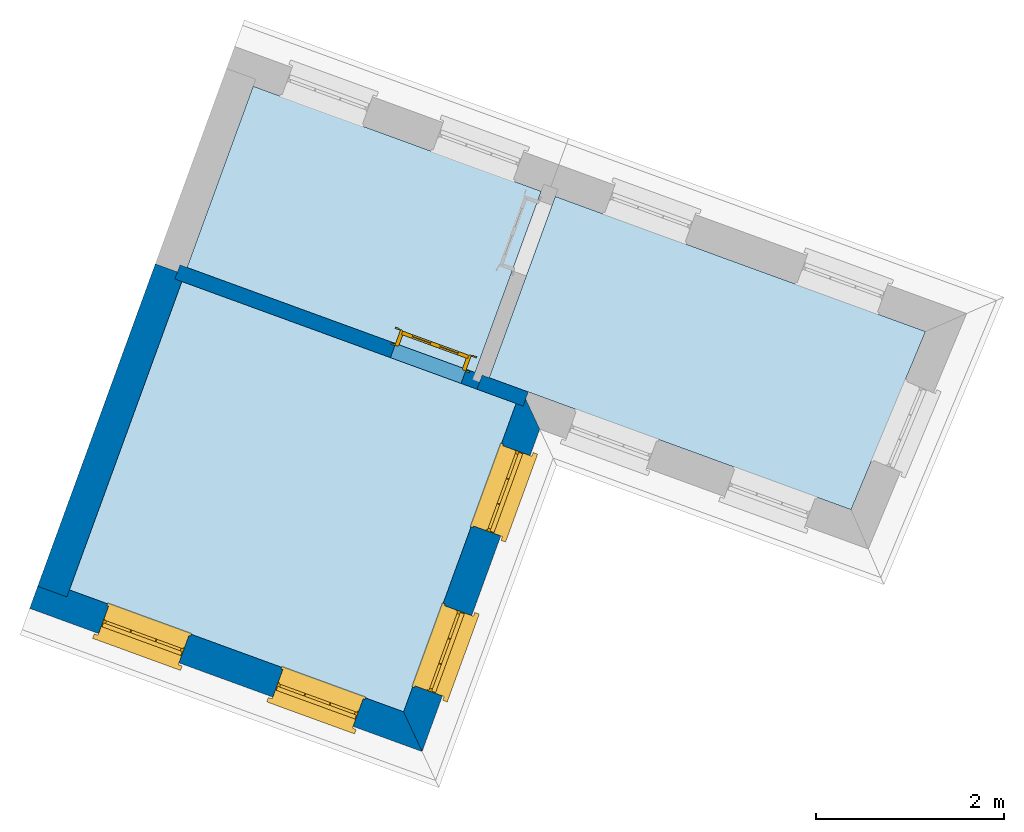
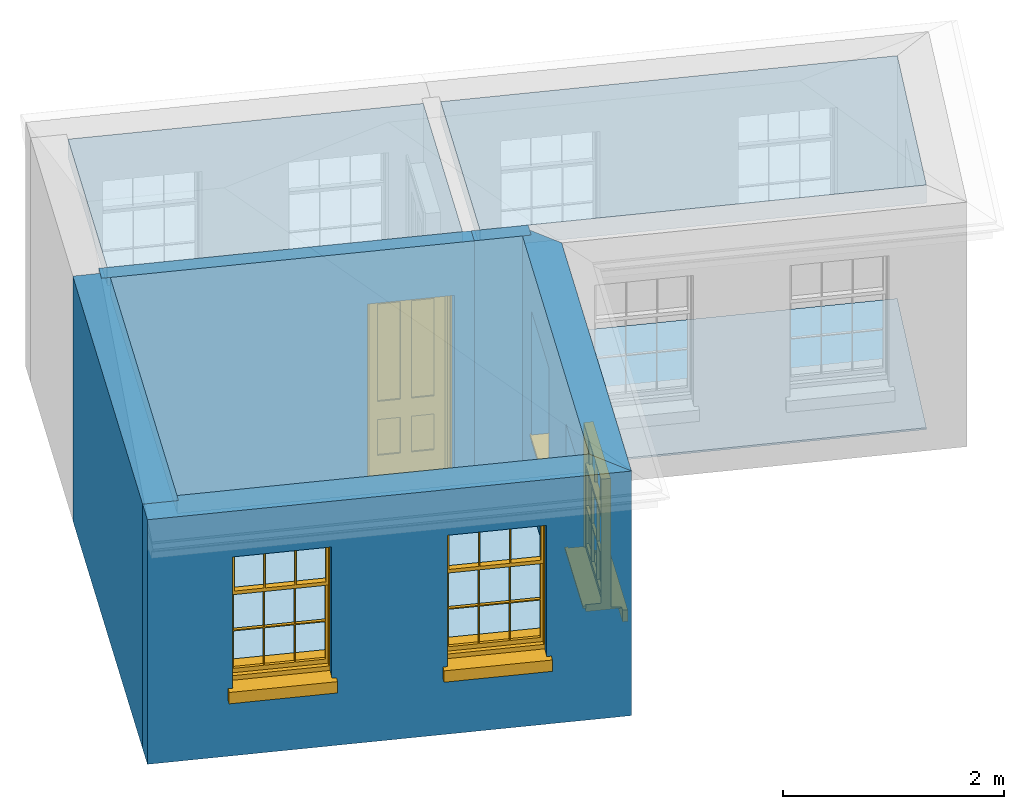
# One storey, part 1 of 3: 5 slabs, 5 walls, 4 windows, 1 door, 5 openings.
"""IFC4 building model written with IfcOpenShell, lengths in metres."""

from ifc_helpers import new_model, si_unit, frame, origin, origin_with_axes, place, context, subcontext, project, spatial, polyline, outline, extrude, faceted_brep, source, transform, mapped, material, layer, layer_set, layer_usage, type_object, type_shapes, element, fill, save


model = new_model("IFC4")

# Units and contexts
model_context = context("Model", 3, world=origin_with_axes())
body_context = subcontext(model_context, "Body", "Model", "MODEL_VIEW")
ifc_project = project(units=[si_unit("PLANEANGLEUNIT", "RADIAN"), si_unit("MASSUNIT", "GRAM", prefix="KILO"), si_unit("FORCEUNIT", "NEWTON", prefix="KILO"), si_unit("LENGTHUNIT", "METRE"), si_unit("AREAUNIT", "SQUARE_METRE"), si_unit("VOLUMEUNIT", "CUBIC_METRE")], contexts=[model_context, model_context])

# Sites, building, storey
site_1_placement = place(None, origin_with_axes())
site_1 = spatial("IfcSite", under=ifc_project, at=site_1_placement, Name="Tamar")
site_2_placement = place(site_1_placement, origin_with_axes())
site_2 = spatial("IfcSite", under=site_1, at=site_2_placement, Name="Site plot-13", CompositionType="ELEMENT")
building_placement = place(None, origin_with_axes())
building = spatial("IfcBuilding", under=site_2, at=building_placement, Name="Building plot-13", CompositionType="ELEMENT")
storey_placement = place(None, frame((0.0, 0.0, 31.85), z_axis=(0.0, 0.0, 1.0), x_axis=(1.0, 0.0, 0.0)))
storey = spatial("IfcBuildingStorey", under=building, at=storey_placement, Name="plot-13 2", CompositionType="ELEMENT", Elevation=31.85)

# Slabs
slab_1_placement = place(storey_placement, frame((245.701009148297, 301.023785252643, 2.5)))
element("IfcSlab", 1, at=slab_1_placement, inside=storey, Name="My Slab", ObjectType="Slab", PredefinedType="FLOOR", context=body_context, shape_type="SweptSolid", body=[
    extrude(outline(polyline([(0.0, 0.0), (0.703407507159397, 1.92803364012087), (-2.36094619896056, 3.04600656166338), (-3.06435370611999, 1.11797292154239), (0.0, 0.0)])), origin_with_axes(), (0.0, 0.0, 1.0), 0.2),
])
slab_2_placement = place(storey_placement, frame((241.385160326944, 298.711421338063, 2.5)))
element("IfcSlab", 2, at=slab_2_placement, inside=storey, Name="My Slab", ObjectType="Slab", PredefinedType="FLOOR", context=body_context, shape_type="SweptSolid", body=[
    extrude(outline(polyline([(0.0, 0.0), (3.55554212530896, -1.29717395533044), (4.75219971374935, 1.98285371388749), (1.19665758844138, 3.28002766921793), (0.0, 0.0)])), origin_with_axes(), (0.0, 0.0, 1.0), 0.2),
])
slab_3_placement = place(storey_placement, frame((241.385160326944, 298.711421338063, 0.0)))
element("IfcSlab", 3, at=slab_3_placement, inside=storey, Name="My Slab", ObjectType="Slab", PredefinedType="FLOOR", context=body_context, shape_type="SweptSolid", body=[
    extrude(outline(polyline([(0.0, 0.0), (3.55554212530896, -1.29717395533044), (4.75219971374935, 1.98285371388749), (1.19665758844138, 3.28002766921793), (0.0, 0.0)])), origin_with_axes(), (0.0, 0.0, 1.0), 0.02),
])
slab_4_placement = place(storey_placement, frame((245.851318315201, 300.968947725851, 2.5)))
element("IfcSlab", 4, at=slab_4_placement, inside=storey, Name="My Slab", ObjectType="Slab", PredefinedType="FLOOR", context=body_context, shape_type="SweptSolid", body=[
    extrude(outline(polyline([(0.0, 0.0), (3.85091988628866, -1.40493708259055), (4.64220016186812, 0.491037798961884), (0.703407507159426, 1.92803364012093), (0.0, 0.0)])), origin_with_axes(), (0.0, 0.0, 1.0), 0.2),
])
slab_5_placement = place(storey_placement, frame((245.851318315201, 300.968947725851, 0.0)))
element("IfcSlab", 5, at=slab_5_placement, inside=storey, Name="My Slab", ObjectType="Slab", PredefinedType="FLOOR", context=body_context, shape_type="SweptSolid", body=[
    extrude(outline(polyline([(0.0, 0.0), (3.85091988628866, -1.40493708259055), (4.64220016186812, 0.491037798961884), (0.703407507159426, 1.92803364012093), (0.0, 0.0)])), origin_with_axes(), (0.0, 0.0, 1.0), 0.02),
])

# Wall, openings, windows
ifc_material_1 = material(Name="Masonry")
ifc_layer_1 = layer(ifc_material_1, 0.33, ventilated=False)
ifc_layer_set_1 = layer_set([ifc_layer_1], Name="exterior_0.08_0.25")
ifc_layer_usage_1 = layer_usage(ifc_layer_set_1, "AXIS2", "POSITIVE", -0.25)
wall_type_1 = type_object("IfcWallType", Name="exterior_0.08_0.25", PredefinedType="SOLIDWALL", material=ifc_layer_set_1)
wall_1_placement = place(storey_placement, frame((241.282586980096, 298.663685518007, 0.0), z_axis=(0.0, 0.0, 1.0), x_axis=(0.939432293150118, -0.342734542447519, 0.0)))
wall_1 = element("IfcWall", 6, at=wall_1_placement, inside=storey, type_object=wall_type_1, material=ifc_layer_usage_1, Name="exterior", context=body_context, shape_type="SweptSolid", body=[
    extrude(outline(polyline([(-0.249999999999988, 0.0799999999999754), (-0.250000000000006, -0.249999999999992), (4.1947774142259, -0.24999999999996), (3.86477741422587, 0.079999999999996), (-0.249999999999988, 0.0799999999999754)])), origin_with_axes(), (0.0, 0.0, 1.0), 2.7),
])
opening_1_placement = place(wall_1_placement, frame((0.531194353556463, 0.0, 0.75)))
opening_1 = element("IfcOpeningElement", 7, at=opening_1_placement, cuts=wall_1, Name="My Opening", ObjectType="Opening", context=body_context, shape_type="SweptSolid", body=[
    extrude(outline(polyline([(0.0, -0.269999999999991), (0.909999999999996, -0.269999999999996), (0.910000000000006, 1.1), (9.99200722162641e-15, 1.10000000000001), (0.0, -0.269999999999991)])), origin_with_axes(), (0.0, 0.0, 1.0), 1.445),
])
opening_2_placement = place(wall_1_placement, frame((2.50358306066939, 0.0, 0.75)))
opening_2 = element("IfcOpeningElement", 8, at=opening_2_placement, cuts=wall_1, Name="My Opening", ObjectType="Opening", context=body_context, shape_type="SweptSolid", body=[
    extrude(outline(polyline([(0.0, -0.270000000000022), (0.909999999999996, -0.270000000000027), (0.910000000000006, 1.09999999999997), (1.02140518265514e-14, 1.09999999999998), (0.0, -0.270000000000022)])), origin_with_axes(), (0.0, 0.0, 1.0), 1.445),
])
window_type = type_object("IfcWindowType", Name="sash_shorter", PartitioningType="DOUBLE_PANEL_HORIZONTAL", PredefinedType="NOTDEFINED")
shared_shape_1 = source(origin(), body_context, "Body", "Brep", [
    faceted_brep([(0.876875, 0.145, 0.999097), (0.876875, 0.145, 1.411875), (0.9, 0.145, 1.435), (0.033125, 0.145, 1.411875), (0.033125, 0.145, 0.999097), (0.01, 0.145, 1.435), (0.033125, 0.115, 1.411875), (0.01, 0.115, 1.435), (0.033125, 0.115, 0.999097), (0.876875, 0.115, 1.411875), (0.876875, 0.115, 0.999097), (0.9, 0.115, 1.435), (0.033125, 0.145, 0.960972), (0.01, 0.145, 0.960972), (0.033125, 0.145, 0.548195), (0.876875, 0.145, 0.960972), (0.876875, 0.145, 0.548195), (0.9, 0.145, 0.960972), (0.876875, 0.145, 0.538195), (0.876875, 0.145, 0.125417), (0.9, 0.145, 0.077167), (0.033125, 0.145, 0.125417), (0.033125, 0.145, 0.538195), (0.01, 0.145, 0.077167), (0.9, 0.115, 0.960972), (0.01, 0.115, 0.960972), (-0.0425, 0.0, 0.01), (-0.0425, -0.05, 0.001667), (0.0, 0.0, 0.01), (0.9525, 0.0, 0.01), (0.91, 0.0, 0.01), (0.9525, -0.05, 0.001667), (-0.02, 0.33, 0.077167), (0.0, 0.33, 0.077167), (-0.02, 0.36, 0.077167), (0.0, 0.19, 0.077167), (0.01, 0.19, 0.077167), (0.91, 0.19, 0.077167), (0.91, 0.33, 0.077167), (0.9, 0.19, 0.077167), (0.93, 0.33, 0.077167), (0.93, 0.36, 0.077167), (0.01, 0.145, 0.999097), (0.01, 0.175, 0.999097), (0.9, 0.145, 0.999097), (0.9, 0.175, 0.999097), (0.876875, 0.175, 0.125417), (0.876875, 0.175, 0.538195), (0.9, 0.175, 0.077167), (0.876875, 0.175, 0.548195), (0.876875, 0.175, 0.960972), (0.033125, 0.175, 0.125417), (0.01, 0.175, 0.077167), (0.033125, 0.175, 0.538195), (0.033125, 0.175, 0.960972), (0.033125, 0.175, 0.548195), (-0.02, 0.33, 0.052167), (-0.02, 0.36, 0.052167), (0.93, 0.36, 0.052167), (0.93, 0.33, 0.052167), (0.91, 0.33, 0.052167), (0.0, 0.33, 0.052167), (0.91, 0.1, 0.026667), (0.0, 0.1, 0.026667), (-0.0425, -0.05, -0.123333), (0.9525, -0.05, -0.123333), (-0.0425, 0.0, -0.123333), (0.9525, 0.0, -0.123333), (0.01, 0.19, 1.435), (0.9, 0.19, 1.435), (0.0, 0.19, 1.445), (0.91, 0.19, 1.445), (0.01, 0.1, 0.077167), (0.9, 0.1, 0.077167), (0.592292, 0.145, 0.125417), (0.592292, 0.175, 0.125417), (0.317708, 0.175, 0.125417), (0.317708, 0.145, 0.125417), (0.592292, 0.145, 0.548195), (0.317708, 0.145, 0.548195), (0.317708, 0.145, 0.538195), (0.592292, 0.145, 0.538195), (0.592292, 0.175, 0.548195), (0.317708, 0.175, 0.548195), (0.602292, 0.175, 0.548195), (0.602292, 0.145, 0.548195), (0.317708, 0.175, 0.538195), (0.307708, 0.175, 0.125417), (0.307708, 0.175, 0.538195), (0.602292, 0.175, 0.538195), (0.602292, 0.175, 0.125417), (0.592292, 0.175, 0.538195), (0.307708, 0.175, 0.548195), (0.317708, 0.175, 0.960972), (0.307708, 0.175, 0.960972), (0.602292, 0.175, 0.960972), (0.592292, 0.175, 0.960972), (0.307708, 0.145, 0.538195), (0.307708, 0.145, 0.125417), (0.307708, 0.145, 0.548195), (0.307708, 0.145, 0.960972), (0.592292, 0.145, 0.960972), (0.317708, 0.145, 0.960972), (0.602292, 0.145, 0.960972), (0.602292, 0.145, 0.538195), (0.602292, 0.145, 0.125417), (0.317708, 0.115, 1.411875), (0.307708, 0.115, 1.411875), (0.307708, 0.115, 0.999097), (0.317708, 0.115, 0.999097), (0.602292, 0.115, 1.411875), (0.592292, 0.115, 1.411875), (0.592292, 0.115, 0.999097), (0.602292, 0.115, 0.999097), (0.317708, 0.145, 0.999097), (0.307708, 0.145, 0.999097), (0.307708, 0.145, 1.411875), (0.317708, 0.145, 1.411875), (0.602292, 0.145, 0.999097), (0.592292, 0.145, 0.999097), (0.592292, 0.145, 1.411875), (0.602292, 0.145, 1.411875), (0.91, 0.1, 1.445), (0.9, 0.1, 1.435), (0.01, 0.1, 1.435), (0.0, 0.1, 1.445), (0.91, 0.0, 0.0), (0.0, 0.0, 0.0), (0.91, 0.33, 0.0), (0.0, 0.33, 0.0)], [[[0, 1, 2]], [[3, 4, 5]], [[6, 7, 8]], [[9, 10, 11]], [[12, 13, 14]], [[15, 16, 17]], [[18, 19, 20]], [[21, 22, 23]], [[24, 15, 17]], [[13, 12, 25]], [[26, 27, 28]], [[29, 30, 31]], [[32, 33, 34]], [[35, 36, 33]], [[37, 38, 39]], [[40, 41, 38]], [[42, 4, 43]], [[44, 45, 0]], [[46, 47, 48]], [[49, 50, 45]], [[51, 52, 53]], [[54, 55, 43]], [[38, 33, 36, 39]], [[41, 34, 33, 38]], [[56, 32, 34, 57]], [[57, 34, 41, 58]], [[58, 41, 40, 59]], [[57, 58, 60, 61]], [[52, 48, 39, 36]], [[62, 63, 28, 30]], [[27, 31, 30, 28]], [[27, 64, 65, 31]], [[66, 67, 65, 64]], [[2, 5, 68, 69]], [[68, 70, 71, 69]], [[20, 23, 72, 73]], [[73, 72, 63, 62]], [[74, 75, 76, 77]], [[78, 79, 80, 81]], [[78, 82, 83, 79]], [[16, 49, 84, 85]], [[86, 76, 87, 88]], [[89, 90, 75, 91]], [[92, 88, 53, 55]], [[82, 91, 86, 83]], [[93, 83, 92, 94]], [[95, 84, 82, 96]], [[89, 84, 49, 47]], [[97, 88, 87, 98]], [[22, 53, 88, 97]], [[81, 91, 75, 74]], [[80, 86, 91, 81]], [[77, 76, 86, 80]], [[99, 92, 55, 14]], [[100, 94, 92, 99]], [[101, 96, 82, 78]], [[79, 83, 93, 102]], [[85, 84, 95, 103]], [[104, 89, 47, 18]], [[105, 90, 89, 104]], [[104, 18, 16, 85]], [[80, 97, 98, 77]], [[104, 81, 74, 105]], [[103, 101, 78, 85]], [[99, 14, 22, 97]], [[102, 100, 99, 79]], [[106, 107, 108, 109]], [[110, 111, 112, 113]], [[114, 115, 116, 117]], [[118, 119, 120, 121]], [[107, 116, 115, 108]], [[111, 120, 119, 112]], [[109, 114, 117, 106]], [[113, 118, 121, 110]], [[85, 78, 81, 104]], [[84, 89, 91, 82]], [[83, 86, 88, 92]], [[79, 99, 97, 80]], [[109, 112, 119, 114]], [[102, 93, 96, 101]], [[106, 117, 120, 111]], [[98, 87, 51, 21]], [[6, 3, 116, 107]], [[110, 121, 1, 9]], [[19, 46, 90, 105]], [[26, 66, 64, 27]], [[29, 31, 65, 67]], [[25, 24, 112, 109]], [[11, 7, 106, 111]], [[75, 48, 52, 76]], [[43, 45, 96, 93]], [[45, 43, 114, 119]], [[5, 2, 120, 117]], [[24, 25, 102, 101]], [[42, 5, 4]], [[2, 44, 0]], [[49, 45, 48, 47]], [[52, 43, 55, 53]], [[14, 13, 23, 22]], [[20, 17, 16, 18]], [[24, 11, 10]], [[25, 8, 7]], [[8, 4, 3, 6]], [[9, 1, 0, 10]], [[15, 50, 49, 16]], [[18, 47, 46, 19]], [[21, 51, 53, 22]], [[14, 55, 54, 12]], [[44, 2, 69, 45]], [[68, 5, 42, 43]], [[36, 35, 70, 68]], [[39, 69, 71, 37]], [[62, 122, 123, 73]], [[63, 72, 124, 125]], [[8, 108, 115, 4]], [[113, 10, 0, 118]], [[94, 100, 12, 54]], [[17, 20, 73, 24]], [[72, 23, 13, 25]], [[52, 36, 68, 43]], [[69, 39, 48, 45]], [[11, 24, 73, 123]], [[7, 124, 72, 25]], [[23, 77, 98]], [[98, 21, 23]], [[105, 74, 20]], [[20, 19, 105]], [[20, 74, 77, 23]], [[113, 112, 24]], [[24, 10, 113]], [[25, 109, 108]], [[108, 8, 25]], [[110, 9, 11]], [[11, 111, 110]], [[7, 6, 107]], [[107, 106, 7]], [[5, 117, 116]], [[116, 3, 5]], [[121, 120, 2]], [[2, 1, 121]], [[11, 123, 124, 7]], [[122, 125, 124, 123]], [[43, 93, 94]], [[94, 54, 43]], [[96, 45, 95]], [[50, 95, 45]], [[15, 103, 95, 50]], [[48, 75, 90]], [[90, 46, 48]], [[87, 76, 52]], [[52, 51, 87]], [[103, 15, 24]], [[24, 101, 103]], [[100, 102, 25]], [[25, 12, 100]], [[115, 114, 43]], [[43, 4, 115]], [[118, 0, 45]], [[45, 119, 118]], [[71, 70, 125, 122]], [[70, 35, 63, 125]], [[122, 62, 37, 71]], [[126, 67, 66, 127]], [[60, 58, 59]], [[38, 60, 59, 40]], [[61, 56, 57]], [[32, 56, 61, 33]], [[61, 60, 128, 129]], [[62, 60, 38, 37]], [[126, 128, 60, 62]], [[33, 61, 63, 35]], [[61, 129, 127, 63]], [[128, 126, 127, 129]], [[28, 127, 66, 26]], [[63, 127, 28]], [[29, 67, 126, 30]], [[30, 126, 62]]]),
])
type_shapes(window_type, [shared_shape_1])
window_1_placement = place(storey_placement, frame((241.689069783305, 298.22798014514, 0.75), z_axis=(0.0, 0.0, 1.0), x_axis=(0.854883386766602, -0.311888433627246, 0.0)))
window_1 = element("IfcWindow", 9, at=window_1_placement, inside=storey, type_object=window_type, Name="bedroom outside window", OverallHeight=1.445, OverallWidth=0.91, context=body_context, shape_type="MappedRepresentation", body=[
    mapped(shared_shape_1, transform((0.0, 0.0, 0.0), scale=1.0)),
])
fill(opening_1, window_1)
window_2_placement = place(storey_placement, frame((243.541995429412, 297.551974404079, 0.75), z_axis=(0.0, 0.0, 1.0), x_axis=(0.854883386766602, -0.311888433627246, 0.0)))
window_2 = element("IfcWindow", 10, at=window_2_placement, inside=storey, type_object=window_type, Name="bedroom outside window", OverallHeight=1.445, OverallWidth=0.91, context=body_context, shape_type="MappedRepresentation", body=[
    mapped(shared_shape_1, transform((0.0, 0.0, 0.0), scale=1.0)),
])
fill(opening_2, window_2)

wall_2_placement = place(storey_placement, frame((244.988438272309, 297.311674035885, 0.0), z_axis=(0.0, 0.0, 1.0), x_axis=(0.342734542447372, 0.939432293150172, 0.0)))
wall_2 = element("IfcWall", 11, at=wall_2_placement, inside=storey, type_object=wall_type_1, material=ifc_layer_usage_1, Name="exterior", context=body_context, shape_type="SweptSolid", body=[
    extrude(outline(polyline([(0.0800000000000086, 0.0799999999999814), (-0.249999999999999, -0.249999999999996), (3.40149980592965, -0.249999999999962), (3.73149980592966, 0.0800000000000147), (0.0800000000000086, 0.0799999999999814)])), origin_with_axes(), (0.0, 0.0, 1.0), 2.7),
])
opening_3_placement = place(wall_2_placement, frame((0.379999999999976, 0.0, 0.75)))
opening_3 = element("IfcOpeningElement", 12, at=opening_3_placement, cuts=wall_2, Name="My Opening", ObjectType="Opening", context=body_context, shape_type="SweptSolid", body=[
    extrude(outline(polyline([(0.0, -0.269999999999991), (0.910000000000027, -0.269999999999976), (0.910000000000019, 1.1), (-7.7715611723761e-15, 1.09999999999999), (0.0, -0.269999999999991)])), origin_with_axes(), (0.0, 0.0, 1.0), 1.445),
])
opening_4_placement = place(wall_2_placement, frame((2.19149980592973, 0.0, 0.75)))
opening_4 = element("IfcOpeningElement", 13, at=opening_4_placement, cuts=wall_2, Name="My Opening", ObjectType="Opening", context=body_context, shape_type="SweptSolid", body=[
    extrude(outline(polyline([(0.0, -0.269999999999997), (0.909999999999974, -0.270000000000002), (0.909999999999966, 1.09999999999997), (-7.54951656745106e-15, 1.09999999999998), (0.0, -0.269999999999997)])), origin_with_axes(), (0.0, 0.0, 1.0), 1.445),
])
window_3_placement = place(storey_placement, frame((245.37232411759, 297.576119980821, 0.75), z_axis=(0.0, 0.0, 1.0), x_axis=(0.311888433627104, 0.854883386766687, 0.0)))
window_3 = element("IfcWindow", 14, at=window_3_placement, inside=storey, type_object=window_type, Name="bedroom outside window", OverallHeight=1.445, OverallWidth=0.91, context=body_context, shape_type="MappedRepresentation", body=[
    mapped(shared_shape_1, transform((0.0, 0.0, 0.0), scale=1.0)),
])
fill(opening_3, window_3)
window_4_placement = place(storey_placement, frame((245.993187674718, 299.277901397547, 0.75), z_axis=(0.0, 0.0, 1.0), x_axis=(0.311888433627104, 0.85488338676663, 0.0)))
window_4 = element("IfcWindow", 15, at=window_4_placement, inside=storey, type_object=window_type, Name="bedroom outside window", OverallHeight=1.445, OverallWidth=0.91, context=body_context, shape_type="MappedRepresentation", body=[
    mapped(shared_shape_1, transform((0.0, 0.0, 0.0), scale=1.0)),
])
fill(opening_4, window_4)

# Wall
ifc_material_2 = material(Name="Masonry")
ifc_layer_2 = layer(ifc_material_2, 0.33, ventilated=False)
ifc_layer_set_2 = layer_set([ifc_layer_2], Name="party_0.08_0.25")
ifc_layer_usage_2 = layer_usage(ifc_layer_set_2, "AXIS2", "POSITIVE", -0.25)
wall_type_2 = type_object("IfcWallType", Name="party_0.08_0.25", PredefinedType="SOLIDWALL", material=ifc_layer_set_2)
wall_3_placement = place(storey_placement, frame((242.534082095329, 302.094022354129, 0.0), z_axis=(0.0, 0.0, 1.0), x_axis=(-0.342734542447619, -0.939432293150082, 0.0)))
element("IfcWall", 16, at=wall_3_placement, inside=storey, type_object=wall_type_2, material=ifc_layer_usage_2, Name="party", context=body_context, shape_type="SweptSolid", body=[
    extrude(outline(polyline([(-5.24527496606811e-14, 0.0799999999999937), (9.09425738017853e-14, -0.249999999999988), (3.65149980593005, -0.250000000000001), (3.65149980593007, 0.0800000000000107), (-5.24527496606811e-14, 0.0799999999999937)])), origin_with_axes(), (0.0, 0.0, 1.0), 2.7),
])

# Wall, opening, door
ifc_material_3 = material(Name="Masonry")
ifc_layer_3 = layer(ifc_material_3, 0.16, ventilated=False)
ifc_layer_set_3 = layer_set([ifc_layer_3], Name="interior_0.08_0.08")
ifc_layer_usage_3 = layer_usage(ifc_layer_set_3, "AXIS2", "POSITIVE", -0.08)
wall_type_3 = type_object("IfcWallType", Name="interior_0.08_0.08", PredefinedType="SOLIDWALL", material=ifc_layer_set_3)
wall_4_placement = place(storey_placement, frame((242.534082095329, 302.094022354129, 0.0), z_axis=(0.0, 0.0, 1.0), x_axis=(0.93943229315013, -0.342734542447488, 0.0)))
wall_4 = element("IfcWall", 17, at=wall_4_placement, inside=storey, type_object=wall_type_3, material=ifc_layer_usage_3, Name="interior", context=body_context, shape_type="SweptSolid", body=[
    extrude(outline(polyline([(-4.82679201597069e-15, 0.0799999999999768), (4.81699484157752e-15, -0.0799999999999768), (3.4219207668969, -0.0799999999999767), (3.42192076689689, 0.0799999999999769), (-4.82679201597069e-15, 0.0799999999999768)])), origin_with_axes(), (0.0, 0.0, 1.0), 2.7),
])
opening_5_placement = place(wall_4_placement, frame((2.44192076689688, 0.0, 0.0199999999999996)))
opening_5 = element("IfcOpeningElement", 18, at=opening_5_placement, cuts=wall_4, Name="My Opening", ObjectType="Opening", context=body_context, shape_type="SweptSolid", body=[
    extrude(outline(polyline([(0.0, -0.100000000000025), (0.799999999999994, -0.100000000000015), (0.800000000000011, 1.09999999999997), (1.73194791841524e-14, 1.09999999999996), (0.0, -0.100000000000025)])), origin_with_axes(), (0.0, 0.0, 1.0), 2.1),
])
door_type = type_object("IfcDoorType", Name="door_inside", OperationType="SINGLE_SWING_LEFT", PredefinedType="NOTDEFINED")
shared_shape_2 = source(origin(), body_context, "Body", "Brep", [
    faceted_brep([(0.773, 0.33, 1.895), (0.66, 0.33, 1.895), (0.66, 0.33, 2.073), (0.773, 0.33, 2.073), (0.773, 0.33, 0.82), (0.66, 0.33, 0.82), (0.45, 0.33, 1.895), (0.45, 0.33, 2.073), (0.773, 0.33, 0.62), (0.66, 0.33, 0.62), (0.66, 0.315, 0.82), (0.66, 0.315, 1.895), (0.45, 0.315, 1.895), (0.35, 0.33, 1.895), (0.35, 0.33, 2.073), (0.773, 0.33, 0.225), (0.66, 0.33, 0.225), (0.45, 0.33, 0.62), (0.45, 0.33, 0.82), (0.45, 0.315, 0.82), (0.35, 0.33, 0.82), (0.14, 0.33, 2.073), (0.14, 0.33, 1.895), (0.773, 0.33, 0.0), (0.66, 0.33, 0.0), (0.66, 0.315, 0.225), (0.66, 0.315, 0.62), (0.45, 0.315, 0.62), (0.35, 0.33, 0.62), (0.35, 0.315, 0.82), (0.35, 0.315, 1.895), (0.14, 0.315, 1.895), (0.027, 0.33, 2.073), (0.027, 0.33, 1.895), (0.773, 0.292, 0.0), (0.66, 0.292, 0.0), (0.45, 0.33, 0.0), (0.45, 0.33, 0.225), (0.45, 0.315, 0.225), (0.35, 0.33, 0.225), (0.14, 0.33, 0.82), (0.14, 0.33, 0.62), (0.14, 0.315, 0.82), (0.027, 0.33, 0.82), (0.773, 0.292, 0.225), (0.66, 0.292, 0.225), (0.45, 0.292, 0.0), (0.35, 0.33, 0.0), (0.35, 0.315, 0.225), (0.35, 0.315, 0.62), (0.14, 0.315, 0.62), (0.027, 0.33, 0.62), (0.773, 0.292, 0.62), (0.66, 0.292, 0.62), (0.45, 0.292, 0.225), (0.35, 0.292, 0.0), (0.14, 0.33, 0.225), (0.14, 0.33, 0.0), (0.14, 0.315, 0.225), (0.027, 0.33, 0.225), (0.773, 0.292, 0.82), (0.66, 0.292, 0.82), (0.66, 0.307, 0.62), (0.66, 0.307, 0.225), (0.45, 0.307, 0.225), (0.35, 0.292, 0.225), (0.14, 0.292, 0.0), (0.027, 0.33, 0.0), (0.773, 0.292, 1.895), (0.66, 0.292, 1.895), (0.45, 0.292, 0.62), (0.45, 0.292, 0.82), (0.45, 0.307, 0.62), (0.35, 0.292, 0.62), (0.14, 0.292, 0.225), (0.027, 0.292, 0.0), (0.773, 0.292, 2.073), (0.66, 0.292, 2.073), (0.66, 0.307, 1.895), (0.66, 0.307, 0.82), (0.45, 0.307, 0.82), (0.35, 0.292, 0.82), (0.35, 0.307, 0.62), (0.35, 0.307, 0.225), (0.14, 0.307, 0.225), (0.027, 0.292, 0.225), (0.45, 0.292, 1.895), (0.45, 0.292, 2.073), (0.45, 0.307, 1.895), (0.35, 0.292, 1.895), (0.14, 0.292, 0.82), (0.14, 0.292, 0.62), (0.14, 0.307, 0.62), (0.027, 0.292, 0.62), (0.35, 0.292, 2.073), (0.35, 0.307, 1.895), (0.35, 0.307, 0.82), (0.14, 0.307, 0.82), (0.027, 0.292, 0.82), (0.14, 0.292, 2.073), (0.14, 0.292, 1.895), (0.14, 0.307, 1.895), (0.027, 0.292, 1.895), (0.027, 0.292, 2.073), (0.02, 0.335, 0.0), (0.005, 0.34, 0.0), (0.005, 0.34, 2.095), (0.02, 0.335, 2.08), (0.02, 0.33, 0.0), (0.0, 0.335, 0.0), (0.0, 0.335, 2.1), (0.795, 0.34, 2.095), (0.78, 0.335, 2.08), (0.02, 0.33, 2.08), (0.0, 0.33, 0.0), (-0.032, 0.345, 0.0), (-0.032, 0.345, 2.132), (0.8, 0.335, 2.1), (0.795, 0.34, 0.0), (0.78, 0.335, 0.0), (0.78, 0.33, 2.08), (0.04, 0.29, 0.0), (0.025, 0.29, 0.0), (0.025, 0.29, 2.075), (0.04, 0.29, 2.06), (-0.04, 0.34, 0.0), (-0.04, 0.34, 2.14), (0.832, 0.345, 2.132), (0.8, 0.335, 0.0), (0.78, 0.33, 0.0), (0.8, 0.33, 0.0), (0.86, 0.33, 0.0), (0.86, 0.33, 2.16), (0.8, 0.33, 2.1), (-0.06, 0.33, 2.16), (0.0, 0.33, 2.1), (-0.06, 0.33, 0.0), (-0.04, 0.345, 0.0), (-0.04, 0.345, 2.14), (0.84, 0.34, 2.14), (0.832, 0.345, 0.0), (0.84, 0.34, 0.0), (0.86, 0.345, 0.0), (0.86, 0.345, 2.16), (-0.06, 0.345, 2.16), (-0.06, 0.345, 0.0), (0.84, 0.345, 0.0), (0.84, 0.345, 2.14), (-0.025, 0.155, 0.0), (-0.025, 0.16, 0.0), (-0.025, 0.16, 2.125), (-0.025, 0.155, 2.125), (-0.017, 0.155, 0.0), (-0.017, 0.155, 2.117), (0.825, 0.16, 2.125), (0.825, 0.155, 2.125), (0.825, 0.155, 0.0), (0.845, 0.155, 0.0), (-0.045, 0.155, 2.145), (-0.045, 0.155, 0.0), (0.845, 0.155, 2.145), (0.015, 0.165, 0.0), (0.015, 0.165, 2.085), (0.817, 0.155, 2.117), (0.825, 0.16, 0.0), (0.845, 0.17, 0.0), (0.845, 0.17, 2.145), (-0.045, 0.17, 2.145), (-0.045, 0.17, 0.0), (0.02, 0.16, 0.0), (0.02, 0.16, 2.08), (0.785, 0.165, 2.085), (0.817, 0.155, 0.0), (0.8, 0.17, 0.0), (0.8, 0.17, 2.1), (0.0, 0.17, 2.1), (0.0, 0.17, 0.0), (0.035, 0.165, 0.0), (0.035, 0.165, 2.065), (0.78, 0.16, 2.08), (0.785, 0.165, 0.0), (0.775, 0.29, 2.075), (0.76, 0.29, 2.06), (0.035, 0.17, 2.065), (0.035, 0.17, 0.0), (0.765, 0.165, 2.065), (0.78, 0.16, 0.0), (0.765, 0.17, 0.0), (0.765, 0.17, 2.065), (0.765, 0.165, 0.0), (0.04, 0.17, 2.06), (0.04, 0.17, 0.0), (0.76, 0.17, 2.06), (0.76, 0.17, 0.0), (0.76, 0.29, 0.0), (0.775, 0.29, 0.0), (0.025, 0.33, 0.0), (0.025, 0.33, 2.075), (0.775, 0.33, 0.0), (0.775, 0.33, 2.075)], [[[0, 1, 2, 3]], [[1, 0, 4, 5]], [[1, 6, 7, 2]], [[8, 9, 5, 4]], [[1, 5, 10, 11]], [[6, 1, 11, 12]], [[6, 13, 14, 7]], [[15, 16, 9, 8]], [[9, 17, 18, 5]], [[5, 18, 19, 10]], [[10, 19, 12, 11]], [[18, 6, 12, 19]], [[18, 20, 13, 6]], [[21, 14, 13, 22]], [[23, 24, 16, 15]], [[9, 16, 25, 26]], [[17, 9, 26, 27]], [[17, 28, 20, 18]], [[13, 20, 29, 30]], [[22, 13, 30, 31]], [[32, 21, 22, 33]], [[34, 35, 24, 23]], [[24, 36, 37, 16]], [[16, 37, 38, 25]], [[25, 38, 27, 26]], [[37, 17, 27, 38]], [[37, 39, 28, 17]], [[40, 20, 28, 41]], [[20, 40, 42, 29]], [[31, 30, 29, 42]], [[40, 22, 31, 42]], [[33, 22, 40, 43]], [[35, 34, 44, 45]], [[35, 46, 36, 24]], [[36, 47, 39, 37]], [[28, 39, 48, 49]], [[41, 28, 49, 50]], [[43, 40, 41, 51]], [[45, 44, 52, 53]], [[46, 35, 45, 54]], [[46, 55, 47, 36]], [[56, 39, 47, 57]], [[39, 56, 58, 48]], [[50, 49, 48, 58]], [[56, 41, 50, 58]], [[51, 41, 56, 59]], [[53, 52, 60, 61]], [[45, 53, 62, 63]], [[54, 45, 63, 64]], [[55, 46, 54, 65]], [[55, 66, 57, 47]], [[59, 56, 57, 67]], [[61, 60, 68, 69]], [[70, 53, 61, 71]], [[53, 70, 72, 62]], [[72, 64, 63, 62]], [[70, 54, 64, 72]], [[65, 54, 70, 73]], [[65, 74, 66, 55]], [[67, 57, 66, 75]], [[69, 68, 76, 77]], [[61, 69, 78, 79]], [[71, 61, 79, 80]], [[73, 70, 71, 81]], [[65, 73, 82, 83]], [[74, 65, 83, 84]], [[74, 85, 75, 66]], [[86, 69, 77, 87]], [[69, 86, 88, 78]], [[88, 80, 79, 78]], [[86, 71, 80, 88]], [[81, 71, 86, 89]], [[73, 81, 90, 91]], [[73, 91, 92, 82]], [[83, 82, 92, 84]], [[91, 74, 84, 92]], [[91, 93, 85, 74]], [[89, 86, 87, 94]], [[81, 89, 95, 96]], [[90, 81, 96, 97]], [[90, 98, 93, 91]], [[94, 99, 100, 89]], [[89, 100, 101, 95]], [[101, 97, 96, 95]], [[100, 90, 97, 101]], [[100, 102, 98, 90]], [[99, 103, 102, 100]], [[32, 103, 99, 21]], [[102, 103, 32, 33]], [[98, 102, 33, 43]], [[21, 99, 94, 14]], [[94, 87, 7, 14]], [[7, 87, 77, 2]], [[76, 3, 2, 77]], [[43, 51, 93, 98]], [[51, 59, 85, 93]], [[67, 75, 85, 59]], [[34, 23, 15, 44]], [[44, 15, 8, 52]], [[52, 8, 4, 60]], [[0, 68, 60, 4]], [[0, 3, 76, 68]], [[104, 105, 106, 107]], [[104, 108, 109, 105]], [[105, 109, 110, 106]], [[107, 106, 111, 112]], [[107, 113, 108, 104]], [[114, 109, 108]], [[109, 115, 116, 110]], [[106, 110, 117, 111]], [[112, 111, 118, 119]], [[113, 107, 112, 120]], [[121, 122, 123, 124]], [[115, 109, 114, 125]], [[115, 125, 126, 116]], [[110, 116, 127, 117]], [[111, 117, 128, 118]], [[118, 128, 129, 119]], [[120, 112, 119, 129]], [[130, 129, 128]], [[130, 131, 132, 133]], [[133, 132, 134, 135]], [[135, 134, 136, 114]], [[136, 125, 114]], [[125, 137, 138, 126]], [[116, 126, 139, 127]], [[117, 127, 140, 128]], [[141, 130, 128, 140]], [[131, 130, 141]], [[131, 142, 143, 132]], [[132, 143, 144, 134]], [[134, 144, 145, 136]], [[137, 125, 136, 145]], [[143, 142, 146]], [[143, 146, 147]], [[137, 145, 144]], [[143, 147, 138]], [[138, 137, 144]], [[143, 138, 144]], [[126, 138, 147, 139]], [[127, 139, 141, 140]], [[142, 131, 141, 146]], [[139, 147, 146, 141]], [[148, 149, 150, 151]], [[149, 152, 153, 150]], [[151, 150, 154, 155]], [[155, 156, 157]], [[158, 159, 148]], [[158, 148, 151]], [[155, 157, 160]], [[158, 151, 155]], [[155, 160, 158]], [[152, 161, 162, 153]], [[150, 153, 163, 154]], [[155, 154, 164, 156]], [[156, 164, 165, 157]], [[157, 165, 166, 160]], [[160, 166, 167, 158]], [[158, 167, 168, 159]], [[161, 169, 170, 162]], [[153, 162, 171, 163]], [[154, 163, 172, 164]], [[165, 164, 173]], [[165, 173, 174, 166]], [[166, 174, 175, 167]], [[167, 175, 176, 168]], [[169, 177, 178, 170]], [[162, 170, 179, 171]], [[163, 171, 180, 172]], [[172, 180, 173, 164]], [[124, 123, 181, 182]], [[183, 178, 177, 184]], [[170, 178, 185, 179]], [[171, 179, 186, 180]], [[187, 173, 180]], [[185, 188, 187, 189]], [[188, 185, 178, 183]], [[179, 185, 189, 186]], [[189, 187, 180, 186]], [[190, 183, 184, 191]], [[192, 188, 183, 190]], [[191, 184, 122, 121]], [[124, 190, 191, 121]], [[193, 187, 188, 192]], [[182, 192, 190, 124]], [[184, 176, 122]], [[194, 195, 187, 193]], [[192, 182, 194, 193]], [[161, 176, 184]], [[114, 108, 122, 176]], [[173, 187, 195]], [[152, 149, 176, 161]], [[169, 161, 184, 177]], [[196, 122, 108]], [[176, 175, 135, 114]], [[173, 195, 129, 130]], [[176, 149, 168]], [[123, 122, 196, 197]], [[196, 108, 113, 197]], [[175, 174, 133, 135]], [[198, 129, 195]], [[133, 174, 173, 130]], [[159, 168, 149, 148]], [[181, 123, 197, 199]], [[197, 113, 120, 199]], [[199, 120, 129, 198]], [[195, 181, 199, 198]], [[195, 194, 182, 181]]]),
])
type_shapes(door_type, [shared_shape_2])
door_placement = place(storey_placement, frame((244.793827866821, 301.163148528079, 0.0199999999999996), z_axis=(0.0, 0.0, 1.0), x_axis=(0.751545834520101, -0.274187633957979, 0.0)))
door = element("IfcDoor", 19, at=door_placement, inside=storey, type_object=door_type, Name="bedroom inside door", OverallHeight=2.1, OverallWidth=0.8, context=body_context, shape_type="MappedRepresentation", body=[
    mapped(shared_shape_2, transform((0.0, 0.0, 0.0), scale=1.0)),
])
fill(opening_5, door)

# Wall
wall_5_placement = place(storey_placement, frame((245.748744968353, 300.921211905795, 0.0), z_axis=(0.0, 0.0, 1.0), x_axis=(0.939432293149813, -0.342734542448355, 0.0)))
element("IfcWall", 20, at=wall_5_placement, inside=storey, type_object=wall_type_3, material=ifc_layer_usage_3, Name="interior", context=body_context, shape_type="SweptSolid", body=[
    extrude(outline(polyline([(1.4437476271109e-15, 0.080000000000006), (-1.43578123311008e-15, -0.080000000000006), (0.522856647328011, -0.080000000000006), (0.522856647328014, 0.080000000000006), (1.4437476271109e-15, 0.080000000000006)])), origin_with_axes(), (0.0, 0.0, 1.0), 2.7),
])

save(model, "model.ifc")
